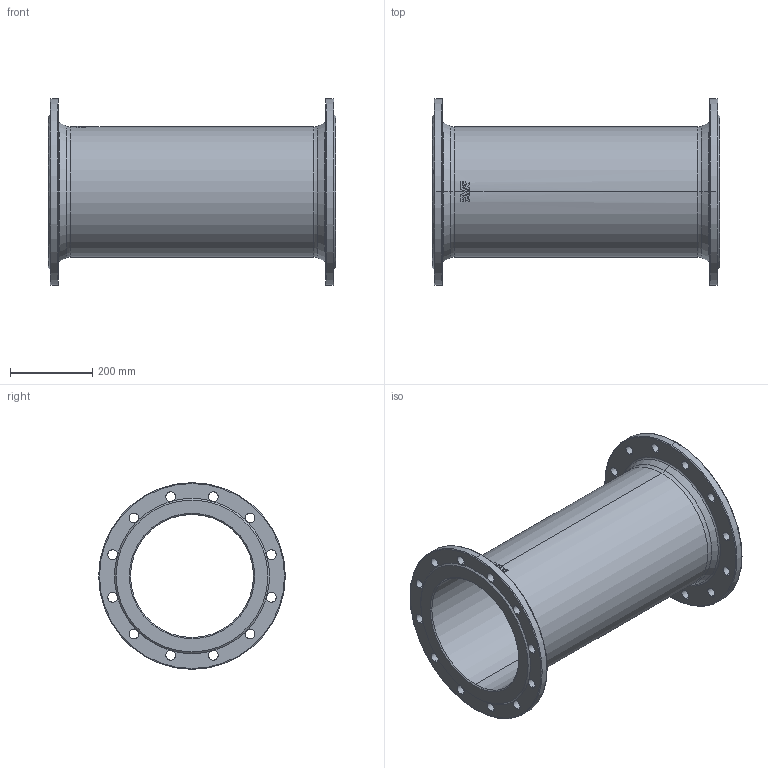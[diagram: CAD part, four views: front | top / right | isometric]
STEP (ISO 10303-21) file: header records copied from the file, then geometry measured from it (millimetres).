
FILE_DESCRIPTION (( 'STEP AP203' ), '1' );
FILE_NAME ('O_712_5010_DN300_0X_REV01.step', '2021-12-03T09:52:56', ( '' ), ( '' ), 'SwSTEP 2.0', 'SolidWorks 2019', '' );
FILE_SCHEMA (( 'CONFIG_CONTROL_DESIGN' ));
Length unit declared in the file: millimetre
Products named in the file (1): O_712_5010_DN300_0X_REV01
Bounding box: 700 x 455 x 455 mm (x, y, z)
Volume: 9482352.8 mm3; surface area: 1711885 mm2
Topology: 1 solids, 1 shells, 155 faces, 438 edges, 268 vertices
Faces by surface type: cylinder 61, plane 49, bspline 17, torus 16, cone 12
Entity records: 5891 total; most frequent: CARTESIAN_POINT 1596, DIRECTION 967, ORIENTED_EDGE 876, EDGE_CURVE 438, AXIS2_PLACEMENT_3D 426, CIRCLE 287, VERTEX_POINT 268, EDGE_LOOP 188
